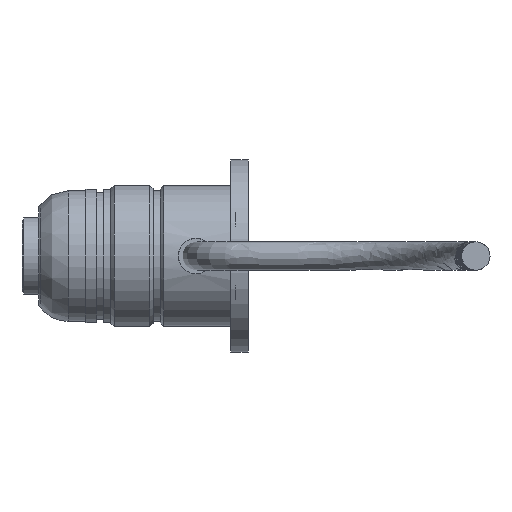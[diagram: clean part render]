
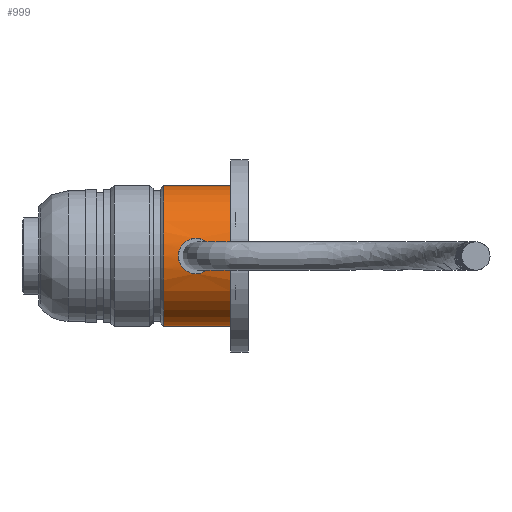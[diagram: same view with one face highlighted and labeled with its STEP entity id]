
A CAD part, left-side view. The second image highlights one B-rep face of the part: STEP entity #999.
In plain terms, the highlighted cylindrical face has radius 19.95 mm (diameter 39.9 mm), a full revolution.
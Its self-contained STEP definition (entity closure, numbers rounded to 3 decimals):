
#16=B_SPLINE_CURVE_WITH_KNOTS('',3,(#1807,#1808,#1809,#1810,#1811,#1812,
#1813,#1814,#1815,#1816),.UNSPECIFIED.,.F.,.F.,(4,2,2,2,4),(2.271,
2.46,2.649,2.838,3.027),
 .UNSPECIFIED.);
#17=B_SPLINE_CURVE_WITH_KNOTS('',3,(#1818,#1819,#1820,#1821,#1822,#1823,
#1824,#1825,#1826,#1827),.UNSPECIFIED.,.F.,.F.,(4,2,2,2,4),(0.,0.189,
0.378,0.568,0.757),.UNSPECIFIED.);
#18=B_SPLINE_CURVE_WITH_KNOTS('',3,(#1834,#1835,#1836,#1837,#1838,#1839,
#1840,#1841,#1842,#1843,#1844,#1845),.UNSPECIFIED.,.F.,.F.,(4,2,2,2,2,4),
(0.757,0.757,0.946,1.135,
1.324,1.514),.UNSPECIFIED.);
#19=B_SPLINE_CURVE_WITH_KNOTS('',3,(#1846,#1847,#1848,#1849,#1850,#1851,
#1852,#1853,#1854,#1855,#1856,#1857),.UNSPECIFIED.,.F.,.F.,(4,2,2,2,2,4),
(1.514,1.703,1.892,2.081,2.271,
2.271),.UNSPECIFIED.);
#116=FACE_OUTER_BOUND('',#182,.T.);
#182=EDGE_LOOP('',(#813,#814,#815,#816,#817,#818,#819,#820,#821,#822,#823,
#824));
#235=LINE('',#1805,#264);
#236=LINE('',#1829,#265);
#264=VECTOR('',#1470,19.95);
#265=VECTOR('',#1471,19.95);
#357=CIRCLE('',#1159,19.95);
#358=CIRCLE('',#1160,19.95);
#359=CIRCLE('',#1162,19.95);
#360=CIRCLE('',#1163,19.95);
#461=VERTEX_POINT('',#1798);
#462=VERTEX_POINT('',#1800);
#463=VERTEX_POINT('',#1804);
#464=VERTEX_POINT('',#1806);
#465=VERTEX_POINT('',#1817);
#466=VERTEX_POINT('',#1828);
#467=VERTEX_POINT('',#1830);
#468=VERTEX_POINT('',#1833);
#592=EDGE_CURVE('',#461,#462,#357,.T.);
#593=EDGE_CURVE('',#462,#461,#358,.T.);
#594=EDGE_CURVE('',#462,#463,#235,.T.);
#595=EDGE_CURVE('',#463,#464,#16,.T.);
#596=EDGE_CURVE('',#464,#465,#17,.T.);
#597=EDGE_CURVE('',#465,#466,#236,.T.);
#598=EDGE_CURVE('',#467,#466,#359,.T.);
#599=EDGE_CURVE('',#466,#467,#360,.T.);
#600=EDGE_CURVE('',#465,#468,#18,.T.);
#601=EDGE_CURVE('',#468,#463,#19,.T.);
#813=ORIENTED_EDGE('',*,*,#592,.F.);
#814=ORIENTED_EDGE('',*,*,#593,.F.);
#815=ORIENTED_EDGE('',*,*,#594,.T.);
#816=ORIENTED_EDGE('',*,*,#595,.T.);
#817=ORIENTED_EDGE('',*,*,#596,.T.);
#818=ORIENTED_EDGE('',*,*,#597,.T.);
#819=ORIENTED_EDGE('',*,*,#598,.F.);
#820=ORIENTED_EDGE('',*,*,#599,.F.);
#821=ORIENTED_EDGE('',*,*,#597,.F.);
#822=ORIENTED_EDGE('',*,*,#600,.T.);
#823=ORIENTED_EDGE('',*,*,#601,.T.);
#824=ORIENTED_EDGE('',*,*,#594,.F.);
#925=CYLINDRICAL_SURFACE('',#1161,19.95);
#999=ADVANCED_FACE('',(#116),#925,.T.);
#1159=AXIS2_PLACEMENT_3D('',#1801,#1464,#1465);
#1160=AXIS2_PLACEMENT_3D('',#1802,#1466,#1467);
#1161=AXIS2_PLACEMENT_3D('',#1803,#1468,#1469);
#1162=AXIS2_PLACEMENT_3D('',#1831,#1472,#1473);
#1163=AXIS2_PLACEMENT_3D('',#1832,#1474,#1475);
#1464=DIRECTION('center_axis',(0.,1.,0.));
#1465=DIRECTION('ref_axis',(-1.,0.,0.));
#1466=DIRECTION('center_axis',(0.,1.,0.));
#1467=DIRECTION('ref_axis',(-1.,0.,0.));
#1468=DIRECTION('center_axis',(0.,1.,0.));
#1469=DIRECTION('ref_axis',(1.,0.,0.));
#1470=DIRECTION('',(0.,-1.,0.));
#1471=DIRECTION('',(0.,-1.,0.));
#1472=DIRECTION('center_axis',(0.,-1.,0.));
#1473=DIRECTION('ref_axis',(1.,0.,0.));
#1474=DIRECTION('center_axis',(0.,-1.,0.));
#1475=DIRECTION('ref_axis',(1.,0.,0.));
#1798=CARTESIAN_POINT('',(19.95,23.9,0.));
#1800=CARTESIAN_POINT('',(-19.95,23.9,0.));
#1801=CARTESIAN_POINT('Origin',(0.,23.9,0.));
#1802=CARTESIAN_POINT('Origin',(0.,23.9,0.));
#1803=CARTESIAN_POINT('Origin',(0.,4.9,0.));
#1804=CARTESIAN_POINT('',(-19.95,19.75,0.));
#1805=CARTESIAN_POINT('',(-19.95,4.9,0.));
#1806=CARTESIAN_POINT('',(-19.313,14.75,5.));
#1807=CARTESIAN_POINT('Ctrl Pts',(-19.95,19.75,0.));
#1808=CARTESIAN_POINT('Ctrl Pts',(-19.95,19.75,0.631));
#1809=CARTESIAN_POINT('Ctrl Pts',(-19.917,19.623,1.301));
#1810=CARTESIAN_POINT('Ctrl Pts',(-19.798,19.112,2.532));
#1811=CARTESIAN_POINT('Ctrl Pts',(-19.714,18.728,3.093));
#1812=CARTESIAN_POINT('Ctrl Pts',(-19.555,17.843,3.978));
#1813=CARTESIAN_POINT('Ctrl Pts',(-19.469,17.283,4.362));
#1814=CARTESIAN_POINT('Ctrl Pts',(-19.347,16.052,4.873));
#1815=CARTESIAN_POINT('Ctrl Pts',(-19.313,15.381,5.));
#1816=CARTESIAN_POINT('Ctrl Pts',(-19.313,14.75,5.));
#1817=CARTESIAN_POINT('',(-19.95,9.75,0.));
#1818=CARTESIAN_POINT('Ctrl Pts',(-19.313,14.75,5.));
#1819=CARTESIAN_POINT('Ctrl Pts',(-19.313,14.119,5.));
#1820=CARTESIAN_POINT('Ctrl Pts',(-19.347,13.448,4.873));
#1821=CARTESIAN_POINT('Ctrl Pts',(-19.469,12.217,4.362));
#1822=CARTESIAN_POINT('Ctrl Pts',(-19.555,11.657,3.978));
#1823=CARTESIAN_POINT('Ctrl Pts',(-19.714,10.772,3.093));
#1824=CARTESIAN_POINT('Ctrl Pts',(-19.798,10.388,2.532));
#1825=CARTESIAN_POINT('Ctrl Pts',(-19.917,9.877,1.301));
#1826=CARTESIAN_POINT('Ctrl Pts',(-19.95,9.75,0.631));
#1827=CARTESIAN_POINT('Ctrl Pts',(-19.95,9.75,0.));
#1828=CARTESIAN_POINT('',(-19.95,4.9,0.));
#1829=CARTESIAN_POINT('',(-19.95,4.9,0.));
#1830=CARTESIAN_POINT('',(19.95,4.9,0.));
#1831=CARTESIAN_POINT('Origin',(0.,4.9,0.));
#1832=CARTESIAN_POINT('Origin',(0.,4.9,0.));
#1833=CARTESIAN_POINT('',(-19.313,14.75,-5.));
#1834=CARTESIAN_POINT('Ctrl Pts',(-19.95,9.75,0.));
#1835=CARTESIAN_POINT('Ctrl Pts',(-19.95,9.75,0.));
#1836=CARTESIAN_POINT('Ctrl Pts',(-19.95,9.75,0.));
#1837=CARTESIAN_POINT('Ctrl Pts',(-19.95,9.75,-0.631));
#1838=CARTESIAN_POINT('Ctrl Pts',(-19.917,9.877,-1.302));
#1839=CARTESIAN_POINT('Ctrl Pts',(-19.798,10.388,-2.533));
#1840=CARTESIAN_POINT('Ctrl Pts',(-19.714,10.772,-3.093));
#1841=CARTESIAN_POINT('Ctrl Pts',(-19.555,11.657,-3.978));
#1842=CARTESIAN_POINT('Ctrl Pts',(-19.469,12.217,-4.363));
#1843=CARTESIAN_POINT('Ctrl Pts',(-19.347,13.448,-4.874));
#1844=CARTESIAN_POINT('Ctrl Pts',(-19.313,14.119,-5.));
#1845=CARTESIAN_POINT('Ctrl Pts',(-19.313,14.75,-5.));
#1846=CARTESIAN_POINT('Ctrl Pts',(-19.313,14.75,-5.));
#1847=CARTESIAN_POINT('Ctrl Pts',(-19.313,15.381,-5.));
#1848=CARTESIAN_POINT('Ctrl Pts',(-19.347,16.052,-4.874));
#1849=CARTESIAN_POINT('Ctrl Pts',(-19.469,17.283,-4.363));
#1850=CARTESIAN_POINT('Ctrl Pts',(-19.555,17.843,-3.978));
#1851=CARTESIAN_POINT('Ctrl Pts',(-19.714,18.728,-3.093));
#1852=CARTESIAN_POINT('Ctrl Pts',(-19.798,19.112,-2.533));
#1853=CARTESIAN_POINT('Ctrl Pts',(-19.917,19.623,-1.302));
#1854=CARTESIAN_POINT('Ctrl Pts',(-19.95,19.75,-0.631));
#1855=CARTESIAN_POINT('Ctrl Pts',(-19.95,19.75,0.));
#1856=CARTESIAN_POINT('Ctrl Pts',(-19.95,19.75,0.));
#1857=CARTESIAN_POINT('Ctrl Pts',(-19.95,19.75,0.));
